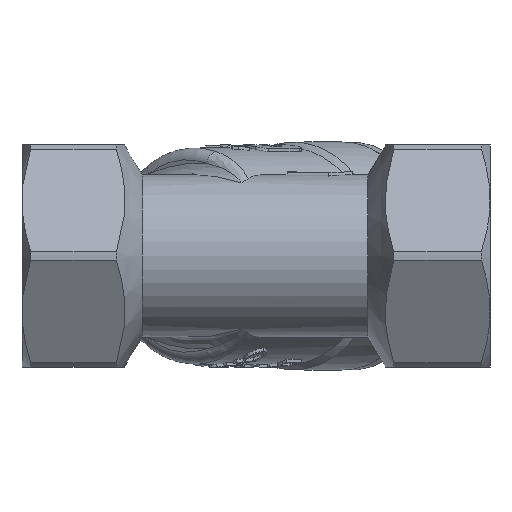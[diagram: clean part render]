
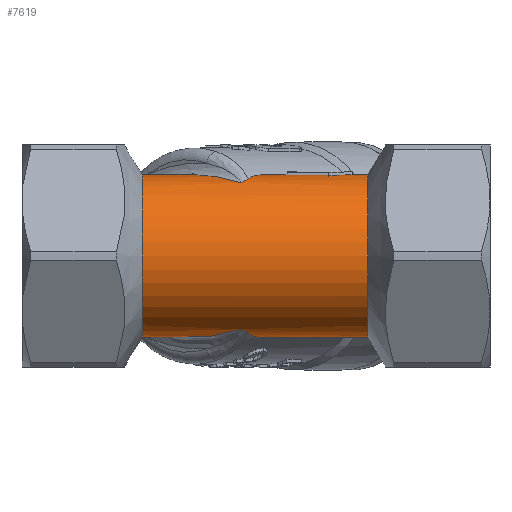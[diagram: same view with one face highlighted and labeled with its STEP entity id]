
A CAD part, front view. The second image highlights one B-rep face of the part: STEP entity #7619.
In plain terms, the highlighted cylindrical face has radius 13.698 mm (diameter 27.395 mm), a partial arc.
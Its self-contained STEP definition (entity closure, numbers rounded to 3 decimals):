
#367=LINE('',#14427,#722);
#369=LINE('',#14434,#724);
#722=VECTOR('',#9744,10.);
#724=VECTOR('',#9752,10.);
#876=FACE_BOUND('',#2617,.T.);
#936=CYLINDRICAL_SURFACE('',#8405,13.698);
#1186=ELLIPSE('',#7792,23.186,13.698);
#1187=ELLIPSE('',#7799,23.186,13.698);
#1429=ELLIPSE('',#8246,25.696,13.698);
#1430=ELLIPSE('',#8248,25.696,13.698);
#1439=B_SPLINE_CURVE_WITH_KNOTS('',3,(#10584,#10585,#10586,#10587,#10588,
#10589,#10590,#10591),.UNSPECIFIED.,.F.,.F.,(4,2,2,4),(-0.001,
0.,0.075,0.166),.UNSPECIFIED.);
#1446=B_SPLINE_CURVE_WITH_KNOTS('',3,(#10740,#10741,#10742,#10743,#10744,
#10745,#10746,#10747,#10748,#10749),.UNSPECIFIED.,.F.,.F.,(4,2,2,2,4),(0.,
0.028,0.129,0.202,0.203),
 .UNSPECIFIED.);
#1455=B_SPLINE_CURVE_WITH_KNOTS('',3,(#10867,#10868,#10869,#10870,#10871,
#10872,#10873,#10874,#10875,#10876,#10877,#10878,#10879,#10880,#10881),
 .UNSPECIFIED.,.F.,.F.,(4,2,2,2,3,2,4),(-2.296,-1.779,
-0.89,-0.445,0.,0.277,0.505),
 .UNSPECIFIED.);
#1458=B_SPLINE_CURVE_WITH_KNOTS('',3,(#10894,#10895,#10896,#10897,#10898,
#10899,#10900,#10901,#10902,#10903,#10904,#10905,#10906,#10907),
 .UNSPECIFIED.,.F.,.F.,(4,2,2,2,2,2,4),(3.819,4.047,
4.324,4.769,5.214,6.103,6.62),
 .UNSPECIFIED.);
#2162=FACE_OUTER_BOUND('',#2616,.T.);
#2616=EDGE_LOOP('',(#6694,#6695,#6696,#6697,#6698,#6699,#6700,#6701));
#2617=EDGE_LOOP('',(#6702,#6703,#6704,#6705,#6706,#6707,#6708));
#2769=CIRCLE('',#7937,13.698);
#2795=CIRCLE('',#8250,13.698);
#2796=CIRCLE('',#8253,13.698);
#2797=CIRCLE('',#8256,13.698);
#2850=CIRCLE('',#8357,13.698);
#2964=VERTEX_POINT('',#10582);
#2965=VERTEX_POINT('',#10583);
#2968=VERTEX_POINT('',#10676);
#2973=VERTEX_POINT('',#10738);
#2974=VERTEX_POINT('',#10739);
#2977=VERTEX_POINT('',#10835);
#2979=VERTEX_POINT('',#10866);
#2982=VERTEX_POINT('',#10889);
#3425=VERTEX_POINT('',#14411);
#3426=VERTEX_POINT('',#14413);
#3427=VERTEX_POINT('',#14417);
#3428=VERTEX_POINT('',#14421);
#3429=VERTEX_POINT('',#14425);
#3430=VERTEX_POINT('',#14429);
#3431=VERTEX_POINT('',#14433);
#3755=EDGE_CURVE('',#2964,#2965,#1439,.T.);
#3762=EDGE_CURVE('',#2964,#2968,#1186,.T.);
#3768=EDGE_CURVE('',#2973,#2974,#1446,.F.);
#3775=EDGE_CURVE('',#2977,#2973,#1187,.T.);
#3779=EDGE_CURVE('',#2979,#2974,#1455,.T.);
#3783=EDGE_CURVE('',#2965,#2982,#1458,.T.);
#3985=EDGE_CURVE('',#2968,#2977,#2769,.T.);
#4436=EDGE_CURVE('',#3426,#3425,#1429,.T.);
#4439=EDGE_CURVE('',#3425,#3427,#1430,.T.);
#4441=EDGE_CURVE('',#3427,#3428,#2795,.T.);
#4443=EDGE_CURVE('',#3428,#3429,#367,.T.);
#4444=EDGE_CURVE('',#3430,#3426,#2796,.T.);
#4446=EDGE_CURVE('',#3431,#3430,#369,.T.);
#4448=EDGE_CURVE('',#3429,#3431,#2797,.T.);
#4600=EDGE_CURVE('',#2982,#2979,#2850,.T.);
#6694=ORIENTED_EDGE('',*,*,#3783,.T.);
#6695=ORIENTED_EDGE('',*,*,#4600,.T.);
#6696=ORIENTED_EDGE('',*,*,#3779,.T.);
#6697=ORIENTED_EDGE('',*,*,#3768,.F.);
#6698=ORIENTED_EDGE('',*,*,#3775,.F.);
#6699=ORIENTED_EDGE('',*,*,#3985,.F.);
#6700=ORIENTED_EDGE('',*,*,#3762,.F.);
#6701=ORIENTED_EDGE('',*,*,#3755,.T.);
#6702=ORIENTED_EDGE('',*,*,#4436,.T.);
#6703=ORIENTED_EDGE('',*,*,#4439,.T.);
#6704=ORIENTED_EDGE('',*,*,#4441,.T.);
#6705=ORIENTED_EDGE('',*,*,#4443,.T.);
#6706=ORIENTED_EDGE('',*,*,#4448,.T.);
#6707=ORIENTED_EDGE('',*,*,#4446,.T.);
#6708=ORIENTED_EDGE('',*,*,#4444,.T.);
#7619=ADVANCED_FACE('',(#2162,#876),#936,.T.);
#7792=AXIS2_PLACEMENT_3D('',#10677,#8599,#8600);
#7799=AXIS2_PLACEMENT_3D('',#10846,#8613,#8614);
#7937=AXIS2_PLACEMENT_3D('',#12182,#8895,#8896);
#8246=AXIS2_PLACEMENT_3D('',#14414,#9728,#9729);
#8248=AXIS2_PLACEMENT_3D('',#14419,#9734,#9735);
#8250=AXIS2_PLACEMENT_3D('',#14423,#9739,#9740);
#8253=AXIS2_PLACEMENT_3D('',#14430,#9747,#9748);
#8256=AXIS2_PLACEMENT_3D('',#14437,#9756,#9757);
#8357=AXIS2_PLACEMENT_3D('',#15142,#10009,#10010);
#8405=AXIS2_PLACEMENT_3D('',#15279,#10126,#10127);
#8599=DIRECTION('center_axis',(0.591,0.807,0.));
#8600=DIRECTION('ref_axis',(-0.807,0.591,0.));
#8613=DIRECTION('center_axis',(0.591,0.807,0.));
#8614=DIRECTION('ref_axis',(-0.807,0.591,0.));
#8895=DIRECTION('center_axis',(-1.,0.,0.));
#8896=DIRECTION('ref_axis',(0.,0.,1.));
#9728=DIRECTION('center_axis',(0.533,0.846,0.));
#9729=DIRECTION('ref_axis',(0.846,-0.533,0.));
#9734=DIRECTION('center_axis',(0.533,-0.846,0.));
#9735=DIRECTION('ref_axis',(-0.846,-0.533,0.));
#9739=DIRECTION('center_axis',(-1.,0.,0.));
#9740=DIRECTION('ref_axis',(0.,-1.,0.));
#9744=DIRECTION('',(-1.,0.,0.));
#9747=DIRECTION('center_axis',(-1.,0.,0.));
#9748=DIRECTION('ref_axis',(0.,-1.,0.));
#9752=DIRECTION('',(1.,0.,0.));
#9756=DIRECTION('center_axis',(-1.,0.,0.));
#9757=DIRECTION('ref_axis',(0.,-1.,0.));
#10009=DIRECTION('center_axis',(-1.,0.,0.));
#10010=DIRECTION('ref_axis',(0.,0.,1.));
#10126=DIRECTION('center_axis',(-1.,0.,0.));
#10127=DIRECTION('ref_axis',(0.,-1.,0.));
#10582=CARTESIAN_POINT('',(-44.998,-5.87,-12.376));
#10583=CARTESIAN_POINT('',(-43.828,-4.373,-12.981));
#10584=CARTESIAN_POINT('Ctrl Pts',(-44.998,-5.87,
-12.376));
#10585=CARTESIAN_POINT('Ctrl Pts',(-44.996,-5.869,
-12.377));
#10586=CARTESIAN_POINT('Ctrl Pts',(-44.995,-5.868,
-12.377));
#10587=CARTESIAN_POINT('Ctrl Pts',(-44.787,-5.738,-12.439));
#10588=CARTESIAN_POINT('Ctrl Pts',(-44.584,-5.562,
-12.52));
#10589=CARTESIAN_POINT('Ctrl Pts',(-44.171,-5.074,
-12.727));
#10590=CARTESIAN_POINT('Ctrl Pts',(-43.976,-4.749,
-12.854));
#10591=CARTESIAN_POINT('Ctrl Pts',(-43.828,-4.373,
-12.981));
#10676=CARTESIAN_POINT('',(-61.608,6.291,-12.167));
#10677=CARTESIAN_POINT('Origin',(-53.015,0.,
0.));
#10738=CARTESIAN_POINT('',(-44.998,-5.87,12.376));
#10739=CARTESIAN_POINT('',(-43.828,-4.373,12.981));
#10740=CARTESIAN_POINT('Ctrl Pts',(-43.828,-4.373,
12.981));
#10741=CARTESIAN_POINT('Ctrl Pts',(-43.861,-4.456,
12.953));
#10742=CARTESIAN_POINT('Ctrl Pts',(-43.897,-4.538,
12.924));
#10743=CARTESIAN_POINT('Ctrl Pts',(-44.073,-4.906,
12.792));
#10744=CARTESIAN_POINT('Ctrl Pts',(-44.247,-5.177,12.684));
#10745=CARTESIAN_POINT('Ctrl Pts',(-44.615,-5.585,
12.509));
#10746=CARTESIAN_POINT('Ctrl Pts',(-44.794,-5.742,
12.437));
#10747=CARTESIAN_POINT('Ctrl Pts',(-44.995,-5.868,
12.377));
#10748=CARTESIAN_POINT('Ctrl Pts',(-44.996,-5.869,
12.377));
#10749=CARTESIAN_POINT('Ctrl Pts',(-44.998,-5.87,
12.376));
#10835=CARTESIAN_POINT('',(-61.608,6.291,12.167));
#10846=CARTESIAN_POINT('Origin',(-53.015,0.,
0.));
#10866=CARTESIAN_POINT('',(-23.515,12.627,5.308));
#10867=CARTESIAN_POINT('Ctrl Pts',(-23.515,12.627,5.308));
#10868=CARTESIAN_POINT('Ctrl Pts',(-24.525,12.061,6.655));
#10869=CARTESIAN_POINT('Ctrl Pts',(-25.821,11.324,7.796));
#10870=CARTESIAN_POINT('Ctrl Pts',(-29.26,9.3,10.256));
#10871=CARTESIAN_POINT('Ctrl Pts',(-31.808,7.746,11.466));
#10872=CARTESIAN_POINT('Ctrl Pts',(-35.556,5.105,12.748));
#10873=CARTESIAN_POINT('Ctrl Pts',(-36.792,4.173,13.086));
#10874=CARTESIAN_POINT('Ctrl Pts',(-39.118,2.188,13.56));
#10875=CARTESIAN_POINT('Ctrl Pts',(-40.209,1.136,13.698));
#10876=CARTESIAN_POINT('Ctrl Pts',(-41.162,0.,
13.698));
#10877=CARTESIAN_POINT('Ctrl Pts',(-41.756,-0.708,
13.698));
#10878=CARTESIAN_POINT('Ctrl Pts',(-42.323,-1.484,
13.642));
#10879=CARTESIAN_POINT('Ctrl Pts',(-43.208,-2.972,
13.389));
#10880=CARTESIAN_POINT('Ctrl Pts',(-43.552,-3.671,
13.217));
#10881=CARTESIAN_POINT('Ctrl Pts',(-43.828,-4.373,
12.981));
#10889=CARTESIAN_POINT('',(-23.515,12.627,-5.308));
#10894=CARTESIAN_POINT('Ctrl Pts',(-43.828,-4.373,
-12.981));
#10895=CARTESIAN_POINT('Ctrl Pts',(-43.552,-3.671,
-13.217));
#10896=CARTESIAN_POINT('Ctrl Pts',(-43.208,-2.972,
-13.389));
#10897=CARTESIAN_POINT('Ctrl Pts',(-42.323,-1.484,
-13.642));
#10898=CARTESIAN_POINT('Ctrl Pts',(-41.756,-0.708,
-13.698));
#10899=CARTESIAN_POINT('Ctrl Pts',(-40.209,1.136,-13.698));
#10900=CARTESIAN_POINT('Ctrl Pts',(-39.118,2.188,-13.56));
#10901=CARTESIAN_POINT('Ctrl Pts',(-36.792,4.173,-13.086));
#10902=CARTESIAN_POINT('Ctrl Pts',(-35.556,5.105,-12.748));
#10903=CARTESIAN_POINT('Ctrl Pts',(-31.808,7.746,-11.466));
#10904=CARTESIAN_POINT('Ctrl Pts',(-29.26,9.3,-10.256));
#10905=CARTESIAN_POINT('Ctrl Pts',(-25.821,11.324,-7.796));
#10906=CARTESIAN_POINT('Ctrl Pts',(-24.525,12.061,-6.655));
#10907=CARTESIAN_POINT('Ctrl Pts',(-23.515,12.627,-5.308));
#12182=CARTESIAN_POINT('Origin',(-61.608,0.,
0.));
#14411=CARTESIAN_POINT('',(-26.171,0.107,13.697));
#14413=CARTESIAN_POINT('',(-30.139,2.607,13.447));
#14414=CARTESIAN_POINT('Origin',(-26.,0.,
0.));
#14417=CARTESIAN_POINT('',(-30.139,-2.393,13.487));
#14419=CARTESIAN_POINT('Origin',(-26.341,0.,
0.));
#14421=CARTESIAN_POINT('',(-30.139,-1.338,13.632));
#14423=CARTESIAN_POINT('Origin',(-30.139,0.,
0.));
#14425=CARTESIAN_POINT('',(-37.171,-1.338,13.632));
#14427=CARTESIAN_POINT('',(-42.562,-1.338,13.632));
#14429=CARTESIAN_POINT('',(-30.139,1.553,13.609));
#14430=CARTESIAN_POINT('Origin',(-30.139,0.,
0.));
#14433=CARTESIAN_POINT('',(-37.171,1.553,13.609));
#14434=CARTESIAN_POINT('',(-42.562,1.553,13.609));
#14437=CARTESIAN_POINT('Origin',(-37.171,0.,
0.));
#15142=CARTESIAN_POINT('Origin',(-23.515,0.,
0.));
#15279=CARTESIAN_POINT('Origin',(-42.562,0.,
0.));
